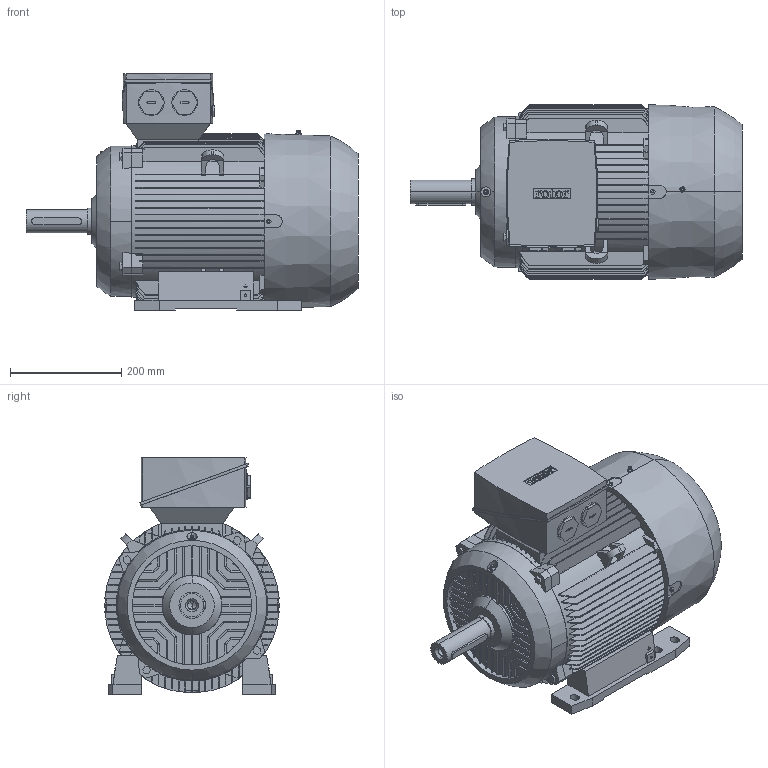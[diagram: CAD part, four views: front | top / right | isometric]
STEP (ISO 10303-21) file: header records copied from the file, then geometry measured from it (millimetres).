
FILE_DESCRIPTION (( 'STEP AP214' ), '1' );
FILE_NAME ('6RN160M08E32 IM1041.STEP', '2021-07-15T14:11:17', ( '' ), ( '' ), 'SwSTEP 2.0', 'SolidWorks 2018', '' );
FILE_SCHEMA (( 'AUTOMOTIVE_DESIGN' ));
Length unit declared in the file: millimetre
Products named in the file (1): 6RN160M08E32 IM1041
Bounding box: 596 x 314 x 425 mm (x, y, z)
Volume: 34431873.7 mm3; surface area: 1350445.9 mm2
Topology: 7 solids, 7 shells, 1381 faces, 3912 edges, 2581 vertices
Faces by surface type: plane 869, cylinder 294, torus 138, bspline 48, cone 32
Entity records: 55504 total; most frequent: CARTESIAN_POINT 21383, ORIENTED_EDGE 7788, DIRECTION 6216, EDGE_CURVE 3894, VERTEX_POINT 2573, LINE 2340, VECTOR 2340, AXIS2_PLACEMENT_3D 1938
